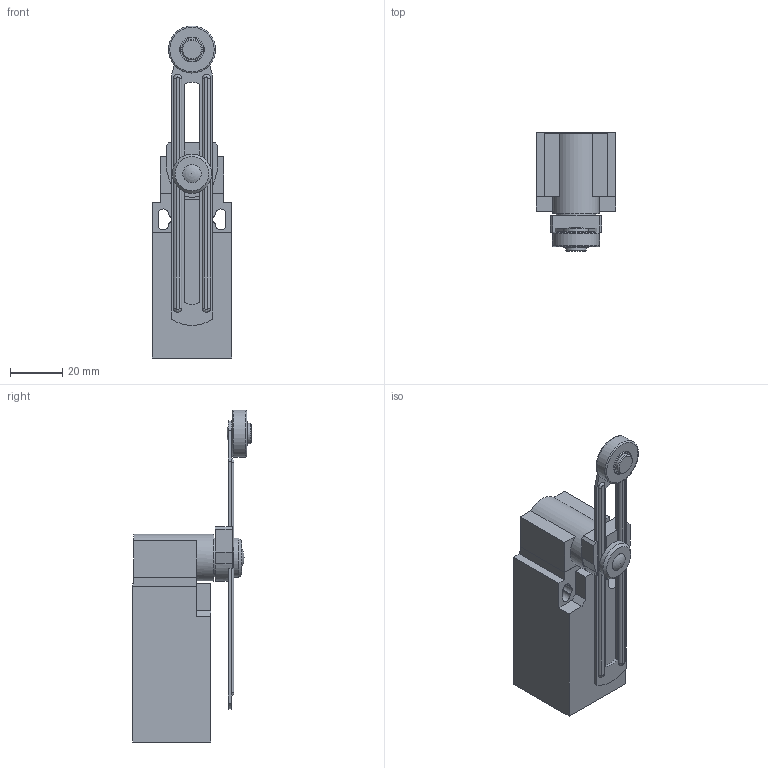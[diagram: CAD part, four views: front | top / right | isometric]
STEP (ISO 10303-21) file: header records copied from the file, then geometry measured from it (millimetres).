
FILE_DESCRIPTION((''),'2;1');
FILE_NAME('D:\Documenti_D\Corrispondenza\Comepi\Catalogo da fare\Modelli Nov 2011\AP\STEP\AP1-T51.iam.stp','2011-11-17T11:44:54',(''),(''),'Autodesk Inventor 2010','Autodesk Inventor 2010','');
FILE_SCHEMA(('AUTOMOTIVE_DESIGN { 1 0 10303 214 1 1 1 1 }'));
Length unit declared in the file: millimetre
Products named in the file (6): AP1-T51; AP1; T51.iam; T51_1; T51_2; T51_3
Assembly tree (5 placements, depth 3):
  AP1-T51
    AP1
    T51.iam
      T51_1
      T51_2
      T51_3
Bounding box: 30.3 x 45.5 x 127 mm (x, y, z)
Volume: 65299.7 mm3; surface area: 19693.5 mm2
Topology: 5 solids, 5 shells, 112 faces, 267 edges, 176 vertices
Faces by surface type: plane 74, cylinder 24, torus 5, cone 4, bspline 4, sphere 1
Full cylindrical faces by diameter (mm): 6 x2, 7 x1, 8 x1, 15 x2, 18 x2, 20.4 x1
Entity records: 3476 total; most frequent: CARTESIAN_POINT 713, DIRECTION 556, ORIENTED_EDGE 486, EDGE_CURVE 243, AXIS2_PLACEMENT_3D 194, VERTEX_POINT 171, VECTOR 168, LINE 168
